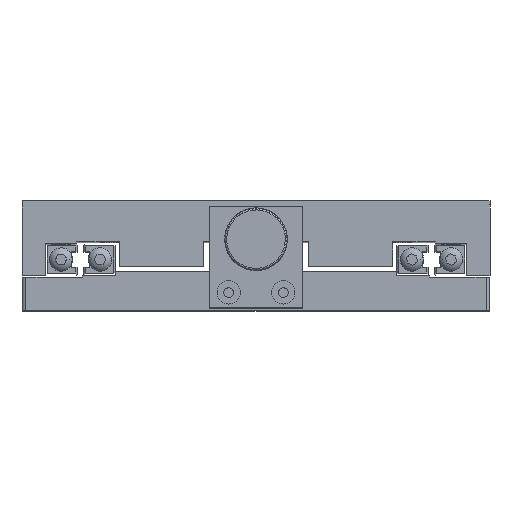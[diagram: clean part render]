
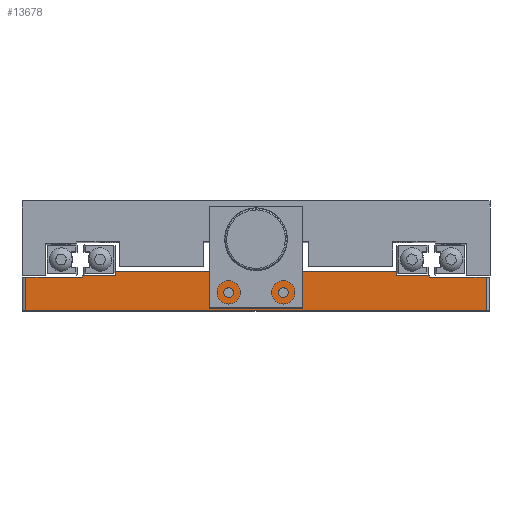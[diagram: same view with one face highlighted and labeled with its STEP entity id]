
A CAD part, top view. The second image highlights one B-rep face of the part: STEP entity #13678.
In plain terms, the highlighted planar face has unit normal (0, 0, 1).
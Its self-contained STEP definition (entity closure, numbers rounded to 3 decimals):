
#82 = EDGE_LOOP ( 'NONE', ( #12311 ) ) ;
#147 = EDGE_LOOP ( 'NONE', ( #12310 ) ) ;
#154 = EDGE_LOOP ( 'NONE', ( #12312, #12313, #12314, #12315, #12316, #12317, #12318, #12319, #12320, #12321, #12322, #12323 ) ) ;
#650 = VERTEX_POINT ( 'NONE', #17057 ) ;
#656 = VERTEX_POINT ( 'NONE', #17063 ) ;
#1887 = FACE_OUTER_BOUND ( 'NONE', #154, .T. ) ;
#1888 = FACE_BOUND ( 'NONE', #147, .T. ) ;
#1891 = FACE_BOUND ( 'NONE', #82, .T. ) ;
#2816 = LINE ( 'NONE', #6746, #2819 ) ;
#2818 = LINE ( 'NONE', #6737, #2820 ) ;
#2819 = VECTOR ( 'NONE', #6736, 1000. ) ;
#2820 = VECTOR ( 'NONE', #6745, 1000. ) ;
#2823 = LINE ( 'NONE', #6741, #2825 ) ;
#2825 = VECTOR ( 'NONE', #6751, 1000. ) ;
#2829 = LINE ( 'NONE', #6773, #2845 ) ;
#2832 = LINE ( 'NONE', #6766, #2840 ) ;
#2835 = CIRCLE ( 'NONE', #20132, 1.25 ) ;
#2839 = CIRCLE ( 'NONE', #20138, 1.25 ) ;
#2840 = VECTOR ( 'NONE', #6780, 1000. ) ;
#2845 = VECTOR ( 'NONE', #6835, 1000. ) ;
#2855 = LINE ( 'NONE', #6851, #2857 ) ;
#2857 = VECTOR ( 'NONE', #6859, 1000. ) ;
#2901 = LINE ( 'NONE', #6945, #2905 ) ;
#2905 = VECTOR ( 'NONE', #6966, 1000. ) ;
#2929 = LINE ( 'NONE', #7058, #2931 ) ;
#2931 = VECTOR ( 'NONE', #7076, 1000. ) ;
#2935 = LINE ( 'NONE', #7074, #2937 ) ;
#2937 = VECTOR ( 'NONE', #7088, 1000. ) ;
#2938 = LINE ( 'NONE', #7079, #2939 ) ;
#2939 = VECTOR ( 'NONE', #7103, 1000. ) ;
#2943 = LINE ( 'NONE', #7100, #2945 ) ;
#2945 = VECTOR ( 'NONE', #7114, 1000. ) ;
#2948 = LINE ( 'NONE', #7116, #2950 ) ;
#2950 = VECTOR ( 'NONE', #7129, 1000. ) ;
#4747 = CARTESIAN_POINT ( 'NONE',  ( 37.605, -14.195, 60. ) ) ;
#4749 = CARTESIAN_POINT ( 'NONE',  ( 37.605, -5.695, 60. ) ) ;
#4757 = CARTESIAN_POINT ( 'NONE',  ( -80.395, -14.195, 60. ) ) ;
#4761 = CARTESIAN_POINT ( 'NONE',  ( -65.895, -5.695, 60. ) ) ;
#4764 = CARTESIAN_POINT ( 'NONE',  ( -65.895, -5.195, 60. ) ) ;
#4765 = CARTESIAN_POINT ( 'NONE',  ( -57.395, -5.195, 60. ) ) ;
#4767 = CARTESIAN_POINT ( 'NONE',  ( -80.395, -5.695, 60. ) ) ;
#4768 = CARTESIAN_POINT ( 'NONE',  ( 23.105, -5.695, 60. ) ) ;
#4769 = CARTESIAN_POINT ( 'NONE',  ( 23.105, -5.195, 60. ) ) ;
#4771 = CARTESIAN_POINT ( 'NONE',  ( 14.605, -5.195, 60. ) ) ;
#4776 = CARTESIAN_POINT ( 'NONE',  ( -57.395, -4.195, 60. ) ) ;
#4783 = CARTESIAN_POINT ( 'NONE',  ( 14.605, -4.195, 60. ) ) ;
#6736 = DIRECTION ( 'NONE',  ( -1., 0., 0. ) ) ;
#6737 = CARTESIAN_POINT ( 'NONE',  ( -81.395, -5.695, 60. ) ) ;
#6741 = CARTESIAN_POINT ( 'NONE',  ( -81.395, -14.195, 60. ) ) ;
#6745 = DIRECTION ( 'NONE',  ( 1., 0., 0. ) ) ;
#6746 = CARTESIAN_POINT ( 'NONE',  ( -81.395, -4.195, 60. ) ) ;
#6751 = DIRECTION ( 'NONE',  ( 1., 0., 0. ) ) ;
#6766 = CARTESIAN_POINT ( 'NONE',  ( 38.605, -5.695, 60. ) ) ;
#6767 = CARTESIAN_POINT ( 'NONE',  ( -14.395, -9.695, 60. ) ) ;
#6768 = DIRECTION ( 'NONE',  ( 0., 0., 1. ) ) ;
#6769 = DIRECTION ( 'NONE',  ( 1., 0., 0. ) ) ;
#6773 = CARTESIAN_POINT ( 'NONE',  ( 37.605, -9.195, 60. ) ) ;
#6780 = DIRECTION ( 'NONE',  ( 1., 0., 0. ) ) ;
#6832 = CARTESIAN_POINT ( 'NONE',  ( -28.395, -9.695, 60. ) ) ;
#6833 = DIRECTION ( 'NONE',  ( 0., 0., 1. ) ) ;
#6834 = DIRECTION ( 'NONE',  ( 1., 0., 0. ) ) ;
#6835 = DIRECTION ( 'NONE',  ( 0., 1., 0. ) ) ;
#6851 = CARTESIAN_POINT ( 'NONE',  ( 23.105, -5.195, 60. ) ) ;
#6859 = DIRECTION ( 'NONE',  ( 1., 0., 0. ) ) ;
#6945 = CARTESIAN_POINT ( 'NONE',  ( -57.395, -5.195, 60. ) ) ;
#6966 = DIRECTION ( 'NONE',  ( 0., 1., 0. ) ) ;
#7058 = CARTESIAN_POINT ( 'NONE',  ( -65.895, -5.695, 60. ) ) ;
#7074 = CARTESIAN_POINT ( 'NONE',  ( -65.895, -5.195, 60. ) ) ;
#7076 = DIRECTION ( 'NONE',  ( 0., 1., 0. ) ) ;
#7079 = CARTESIAN_POINT ( 'NONE',  ( 23.105, -5.695, 60. ) ) ;
#7088 = DIRECTION ( 'NONE',  ( 1., 0., 0. ) ) ;
#7100 = CARTESIAN_POINT ( 'NONE',  ( -80.395, -9.195, 60. ) ) ;
#7103 = DIRECTION ( 'NONE',  ( 0., -1., 0. ) ) ;
#7114 = DIRECTION ( 'NONE',  ( 0., -1., 0. ) ) ;
#7116 = CARTESIAN_POINT ( 'NONE',  ( 14.605, -5.195, 60. ) ) ;
#7129 = DIRECTION ( 'NONE',  ( 0., -1., 0. ) ) ;
#7950 = AXIS2_PLACEMENT_3D ( 'NONE', #8793, #8788, #8797 ) ;
#8788 = DIRECTION ( 'NONE',  ( 0., 0., -1. ) ) ;
#8793 = CARTESIAN_POINT ( 'NONE',  ( -21.395, -9.195, 60. ) ) ;
#8795 = PLANE ( 'NONE',  #7950 ) ;
#8797 = DIRECTION ( 'NONE',  ( -1., 0., 0. ) ) ;
#12310 = ORIENTED_EDGE ( 'NONE', *, *, #18469, .F. ) ;
#12311 = ORIENTED_EDGE ( 'NONE', *, *, #18461, .F. ) ;
#12312 = ORIENTED_EDGE ( 'NONE', *, *, #18454, .T. ) ;
#12313 = ORIENTED_EDGE ( 'NONE', *, *, #18470, .T. ) ;
#12314 = ORIENTED_EDGE ( 'NONE', *, *, #18465, .F. ) ;
#12315 = ORIENTED_EDGE ( 'NONE', *, *, #18539, .F. ) ;
#12316 = ORIENTED_EDGE ( 'NONE', *, *, #18479, .F. ) ;
#12317 = ORIENTED_EDGE ( 'NONE', *, *, #18544, .F. ) ;
#12318 = ORIENTED_EDGE ( 'NONE', *, *, #18452, .T. ) ;
#12319 = ORIENTED_EDGE ( 'NONE', *, *, #18514, .F. ) ;
#12320 = ORIENTED_EDGE ( 'NONE', *, *, #18536, .F. ) ;
#12321 = ORIENTED_EDGE ( 'NONE', *, *, #18534, .F. ) ;
#12322 = ORIENTED_EDGE ( 'NONE', *, *, #18451, .F. ) ;
#12323 = ORIENTED_EDGE ( 'NONE', *, *, #18541, .T. ) ;
#12456 = VERTEX_POINT ( 'NONE', #4747 ) ;
#12458 = VERTEX_POINT ( 'NONE', #4749 ) ;
#12466 = VERTEX_POINT ( 'NONE', #4757 ) ;
#12470 = VERTEX_POINT ( 'NONE', #4761 ) ;
#12473 = VERTEX_POINT ( 'NONE', #4764 ) ;
#12474 = VERTEX_POINT ( 'NONE', #4765 ) ;
#12476 = VERTEX_POINT ( 'NONE', #4767 ) ;
#12477 = VERTEX_POINT ( 'NONE', #4768 ) ;
#12478 = VERTEX_POINT ( 'NONE', #4769 ) ;
#12480 = VERTEX_POINT ( 'NONE', #4771 ) ;
#12485 = VERTEX_POINT ( 'NONE', #4776 ) ;
#12492 = VERTEX_POINT ( 'NONE', #4783 ) ;
#13678 = ADVANCED_FACE ( 'NONE', ( #1888, #1891, #1887 ), #8795, .F. ) ;
#17057 = CARTESIAN_POINT ( 'NONE',  ( -13.145, -9.695, 60. ) ) ;
#17063 = CARTESIAN_POINT ( 'NONE',  ( -27.145, -9.695, 60. ) ) ;
#18451 = EDGE_CURVE ( 'NONE', #12476, #12470, #2818, .T. ) ;
#18452 = EDGE_CURVE ( 'NONE', #12492, #12485, #2816, .T. ) ;
#18454 = EDGE_CURVE ( 'NONE', #12466, #12456, #2823, .T. ) ;
#18461 = EDGE_CURVE ( 'NONE', #650, #650, #2835, .T. ) ;
#18465 = EDGE_CURVE ( 'NONE', #12477, #12458, #2832, .T. ) ;
#18469 = EDGE_CURVE ( 'NONE', #656, #656, #2839, .T. ) ;
#18470 = EDGE_CURVE ( 'NONE', #12456, #12458, #2829, .T. ) ;
#18479 = EDGE_CURVE ( 'NONE', #12480, #12478, #2855, .T. ) ;
#18514 = EDGE_CURVE ( 'NONE', #12474, #12485, #2901, .T. ) ;
#18534 = EDGE_CURVE ( 'NONE', #12470, #12473, #2929, .T. ) ;
#18536 = EDGE_CURVE ( 'NONE', #12473, #12474, #2935, .T. ) ;
#18539 = EDGE_CURVE ( 'NONE', #12478, #12477, #2938, .T. ) ;
#18541 = EDGE_CURVE ( 'NONE', #12476, #12466, #2943, .T. ) ;
#18544 = EDGE_CURVE ( 'NONE', #12492, #12480, #2948, .T. ) ;
#20132 = AXIS2_PLACEMENT_3D ( 'NONE', #6767, #6768, #6769 ) ;
#20138 = AXIS2_PLACEMENT_3D ( 'NONE', #6832, #6833, #6834 ) ;
